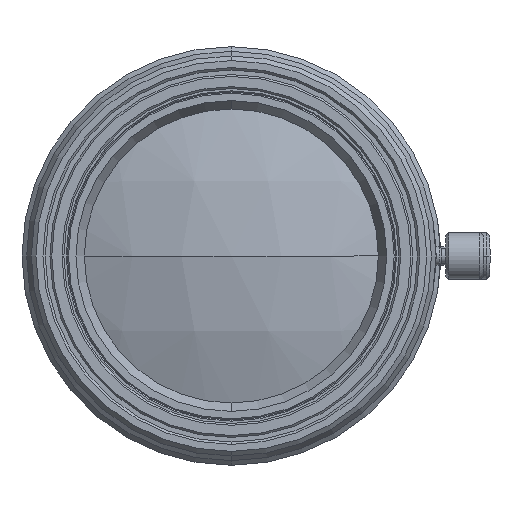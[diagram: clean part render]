
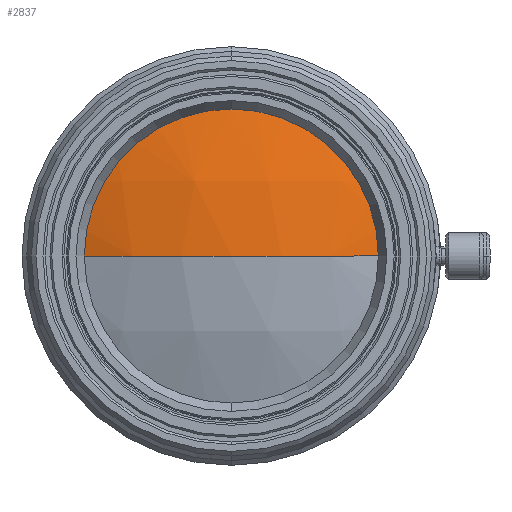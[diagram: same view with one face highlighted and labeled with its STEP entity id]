
A CAD part, left-side view. The second image highlights one B-rep face of the part: STEP entity #2837.
In plain terms, the highlighted spherical face has radius 45.27 mm.
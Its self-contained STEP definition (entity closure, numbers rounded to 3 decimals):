
#22 = ORIENTED_EDGE ( 'NONE', *, *, #1937, .F. ) ;
#63 = AXIS2_PLACEMENT_3D ( 'NONE', #2222, #2600, #2206 ) ;
#108 = CARTESIAN_POINT ( 'NONE',  ( -104.608, 15.8, 0. ) ) ;
#136 = CARTESIAN_POINT ( 'NONE',  ( -62.184, 0., 0. ) ) ;
#601 = AXIS2_PLACEMENT_3D ( 'NONE', #1564, #2636, #3472 ) ;
#606 = CIRCLE ( 'NONE', #3562, 45.27 ) ;
#642 = SPHERICAL_SURFACE ( 'NONE', #3438, 45.27 ) ;
#828 = EDGE_CURVE ( 'NONE', #3101, #1588, #606, .T. ) ;
#907 = CARTESIAN_POINT ( 'NONE',  ( -62.184, 0., 0. ) ) ;
#1261 = FACE_OUTER_BOUND ( 'NONE', #1991, .T. ) ;
#1340 = CARTESIAN_POINT ( 'NONE',  ( -107.454, 0., 0. ) ) ;
#1428 = CARTESIAN_POINT ( 'NONE',  ( -104.608, -15.8, 0. ) ) ;
#1564 = CARTESIAN_POINT ( 'NONE',  ( -62.184, 0., 0. ) ) ;
#1588 = VERTEX_POINT ( 'NONE', #1428 ) ;
#1937 = EDGE_CURVE ( 'NONE', #2696, #4022, #2540, .T. ) ;
#1991 = EDGE_LOOP ( 'NONE', ( #3281, #4603, #3590, #22 ) ) ;
#2033 = EDGE_CURVE ( 'NONE', #3101, #2696, #2077, .T. ) ;
#2077 = CIRCLE ( 'NONE', #601, 45.27 ) ;
#2206 = DIRECTION ( 'NONE',  ( 0., 0., -1. ) ) ;
#2222 = CARTESIAN_POINT ( 'NONE',  ( -104.608, 0., 0. ) ) ;
#2339 = CARTESIAN_POINT ( 'NONE',  ( -104.608, 0., 0. ) ) ;
#2367 = DIRECTION ( 'NONE',  ( 0., 0., 1. ) ) ;
#2540 = CIRCLE ( 'NONE', #63, 15.8 ) ;
#2600 = DIRECTION ( 'NONE',  ( 1., 0., 0. ) ) ;
#2636 = DIRECTION ( 'NONE',  ( 0., 0., -1. ) ) ;
#2696 = VERTEX_POINT ( 'NONE', #108 ) ;
#2703 = DIRECTION ( 'NONE',  ( 0., -1., 0. ) ) ;
#2717 = DIRECTION ( 'NONE',  ( 0., 0., -1. ) ) ;
#2837 = ADVANCED_FACE ( 'NONE', ( #1261 ), #642, .T. ) ;
#2853 = EDGE_CURVE ( 'NONE', #4022, #1588, #3364, .T. ) ;
#3100 = DIRECTION ( 'NONE',  ( 0., 0., 1. ) ) ;
#3101 = VERTEX_POINT ( 'NONE', #1340 ) ;
#3281 = ORIENTED_EDGE ( 'NONE', *, *, #2033, .F. ) ;
#3362 = CARTESIAN_POINT ( 'NONE',  ( -104.608, 0., 15.8 ) ) ;
#3364 = CIRCLE ( 'NONE', #4155, 15.8 ) ;
#3438 = AXIS2_PLACEMENT_3D ( 'NONE', #907, #3100, #4516 ) ;
#3472 = DIRECTION ( 'NONE',  ( -1., 0., 0. ) ) ;
#3562 = AXIS2_PLACEMENT_3D ( 'NONE', #136, #2367, #2703 ) ;
#3590 = ORIENTED_EDGE ( 'NONE', *, *, #2853, .F. ) ;
#3753 = DIRECTION ( 'NONE',  ( 1., 0., 0. ) ) ;
#4022 = VERTEX_POINT ( 'NONE', #3362 ) ;
#4155 = AXIS2_PLACEMENT_3D ( 'NONE', #2339, #3753, #2717 ) ;
#4516 = DIRECTION ( 'NONE',  ( 0., 1., 0. ) ) ;
#4603 = ORIENTED_EDGE ( 'NONE', *, *, #828, .T. ) ;
